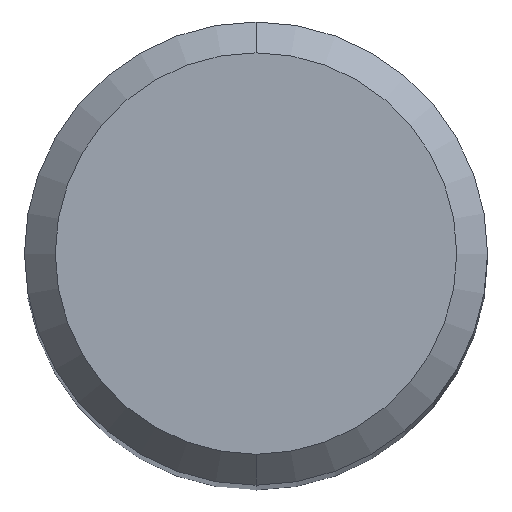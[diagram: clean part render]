
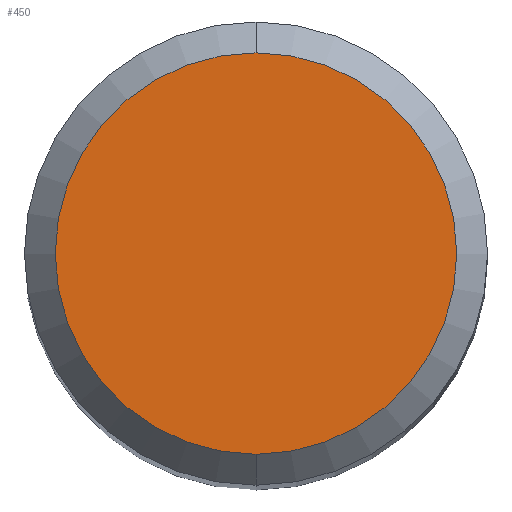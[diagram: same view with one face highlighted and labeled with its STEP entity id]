
A CAD part, top view. The second image highlights one B-rep face of the part: STEP entity #450.
In plain terms, the highlighted planar face has unit normal (0, 0, 1).
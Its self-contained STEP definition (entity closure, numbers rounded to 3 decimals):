
#206=EDGE_CURVE('',#400,#366,#517,.T.);
#252=EDGE_CURVE('',#366,#400,#565,.T.);
#366=VERTEX_POINT('',#691);
#400=VERTEX_POINT('',#729);
#450=ADVANCED_FACE('',(#787),#788,.T.);
#517=CIRCLE('',#933,2.6);
#565=CIRCLE('',#1055,2.6);
#691=CARTESIAN_POINT('',(0.0,2.6,0.0));
#729=CARTESIAN_POINT('',(0.,-2.6,0.0));
#787=FACE_OUTER_BOUND('',#1426,.T.);
#788=PLANE('',#1427);
#933=AXIS2_PLACEMENT_3D('',#1475,#1476,#1477);
#1055=AXIS2_PLACEMENT_3D('',#1517,#1518,#1519);
#1426=EDGE_LOOP('',(#1791,#1792));
#1427=AXIS2_PLACEMENT_3D('',#1793,#1794,#1795);
#1475=CARTESIAN_POINT('',(0.0,0.0,0.0));
#1476=DIRECTION('',(0.0,0.0,-1.0));
#1477=DIRECTION('',(0.0,1.0,0.0));
#1517=CARTESIAN_POINT('',(0.0,0.0,0.0));
#1518=DIRECTION('',(0.0,0.0,-1.0));
#1519=DIRECTION('',(0.0,1.0,0.0));
#1791=ORIENTED_EDGE('',*,*,#252,.F.);
#1792=ORIENTED_EDGE('',*,*,#206,.F.);
#1793=CARTESIAN_POINT('',(0.0,1.3,0.0));
#1794=DIRECTION('',(-0.0,0.0,1.0));
#1795=DIRECTION('',(0.0,-1.0,0.0));
